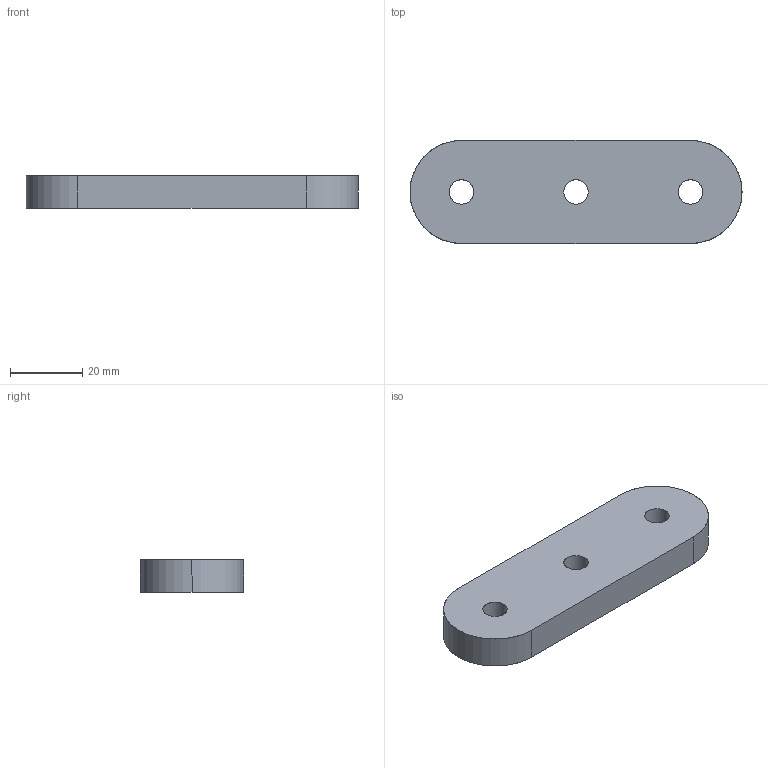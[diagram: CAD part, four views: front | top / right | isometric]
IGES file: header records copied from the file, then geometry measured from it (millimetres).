
Start section: SolidWorks IGES file using analytic representation for surfaces
Global section: file name: \\SERVER3\Design\_New Design Drive Folder List\_Design Vault\AAI\Modular Round Tube Connectors\Solidworks Models\STP Files\12202013\1.000 Inch Modular Connectors\DRP-002-0534-00.IGS; native system: SolidWorks 2013; preprocessor: SolidWorks 2013; author: tbraun; date: 131220.115821; units: inch
Bounding box: 92.08 x 28.57 x 9.14 mm (x, y, z)
Surface area: 7260.9 mm2 (no closed solid volume)
Topology: 0 solids, 0 shells, 14 faces, 372 edges, 372 vertices
Faces by surface type: revolution 10, bspline 4
